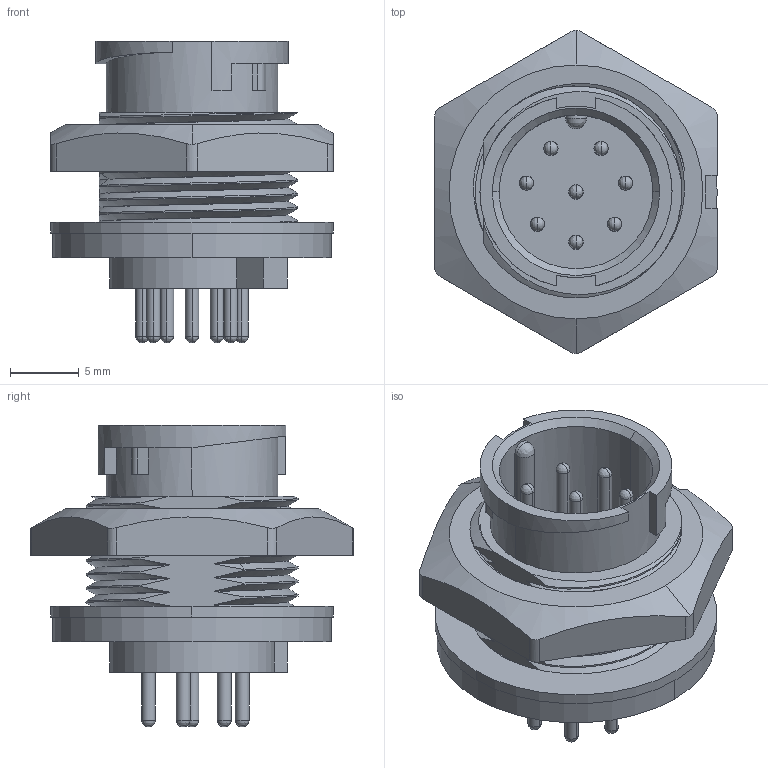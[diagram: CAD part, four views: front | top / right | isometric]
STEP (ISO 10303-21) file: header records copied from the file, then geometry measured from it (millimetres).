
FILE_DESCRIPTION (( 'STEP AP203' ), '1' );
FILE_NAME ('870-008-113R001.STEP', '2024-06-14T18:52:57', ( '' ), ( '' ), 'SwSTEP 2.0', 'SolidWorks 2020', '' );
FILE_SCHEMA (( 'CONFIG_CONTROL_DESIGN' ));
Length unit declared in the file: millimetre
Products named in the file (1): 870-008-113R001
Bounding box: 20.6 x 23.54 x 22 mm (x, y, z)
Volume: 2660.5 mm3; surface area: 3549.6 mm2
Topology: 2 solids, 2 shells, 244 faces, 646 edges, 378 vertices
Faces by surface type: cylinder 103, bspline 77, plane 59, cone 5
Entity records: 13522 total; most frequent: CARTESIAN_POINT 8251, ORIENTED_EDGE 1160, DIRECTION 919, EDGE_CURVE 580, VERTEX_POINT 378, AXIS2_PLACEMENT_3D 371, EDGE_LOOP 284, ADVANCED_FACE 244
